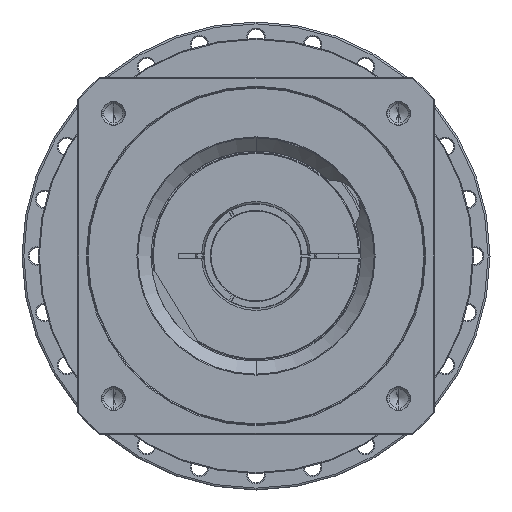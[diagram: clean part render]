
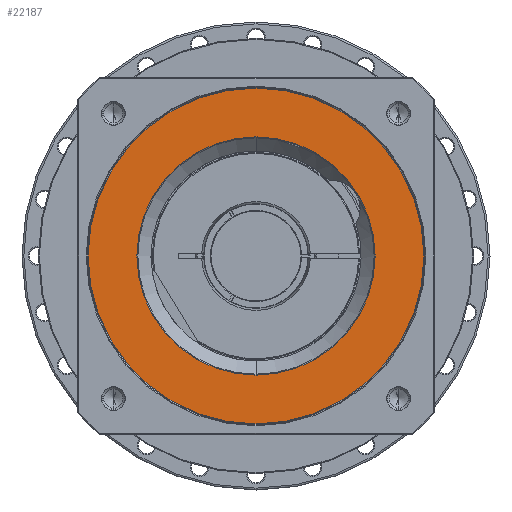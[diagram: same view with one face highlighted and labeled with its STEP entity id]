
A CAD part, left-side view. The second image highlights one B-rep face of the part: STEP entity #22187.
In plain terms, the highlighted planar face has unit normal (-1, 0, 0) as drawn and (0, 0, 1) by its records, which use the part's own axes.
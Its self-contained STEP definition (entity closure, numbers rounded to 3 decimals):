
#21041=CARTESIAN_POINT('',(0.,0.,46.));
#21042=DIRECTION('',(0.,0.,-1.));
#21043=DIRECTION('',(0.,-1.,0.));
#21044=AXIS2_PLACEMENT_3D('',#21041,#21042,#21043);
#21046=CARTESIAN_POINT('',(0.,0.,46.));
#21047=DIRECTION('',(0.,0.,-1.));
#21048=DIRECTION('',(0.,1.,0.));
#21049=AXIS2_PLACEMENT_3D('',#21046,#21047,#21048);
#21051=CARTESIAN_POINT('',(0.,0.,
46.));
#21052=DIRECTION('',(0.,0.,-1.));
#21053=DIRECTION('',(1.,0.,0.));
#21054=AXIS2_PLACEMENT_3D('',#21051,#21052,#21053);
#21056=CARTESIAN_POINT('',(0.,0.,
46.));
#21057=DIRECTION('',(0.,0.,-1.));
#21058=DIRECTION('',(-1.,0.,0.));
#21059=AXIS2_PLACEMENT_3D('',#21056,#21057,#21058);
#21923=CARTESIAN_POINT('',(0.,-89.5,46.));
#21924=CARTESIAN_POINT('',(0.,89.5,46.));
#21925=VERTEX_POINT('',#21923);
#21926=VERTEX_POINT('',#21924);
#21959=CARTESIAN_POINT('',(63.5,0.,46.));
#21960=CARTESIAN_POINT('',(-63.5,0.,
46.));
#21961=VERTEX_POINT('',#21959);
#21962=VERTEX_POINT('',#21960);
#22171=CARTESIAN_POINT('',(0.,0.,46.));
#22172=DIRECTION('',(0.,0.,-1.));
#22173=DIRECTION('',(0.,-1.,0.));
#22174=AXIS2_PLACEMENT_3D('',#22171,#22172,#22173);
#22175=PLANE('',#22174);
#22177=ORIENTED_EDGE('',*,*,#22176,.T.);
#22179=ORIENTED_EDGE('',*,*,#22178,.T.);
#22180=EDGE_LOOP('',(#22177,#22179));
#22181=FACE_OUTER_BOUND('',#22180,.F.);
#22182=ORIENTED_EDGE('',*,*,#22161,.F.);
#22184=ORIENTED_EDGE('',*,*,#22183,.F.);
#22185=EDGE_LOOP('',(#22182,#22184));
#22186=FACE_BOUND('',#22185,.F.);
#22187=ADVANCED_FACE('',(#22181,#22186),#22175,.F.);
#21045=CIRCLE('',#21044,89.5);
#21050=CIRCLE('',#21049,89.5);
#21055=CIRCLE('',#21054,63.5);
#21060=CIRCLE('',#21059,63.5);
#22161=EDGE_CURVE('',#21961,#21962,#21055,.T.);
#22176=EDGE_CURVE('',#21925,#21926,#21045,.T.);
#22178=EDGE_CURVE('',#21926,#21925,#21050,.T.);
#22183=EDGE_CURVE('',#21962,#21961,#21060,.T.);
